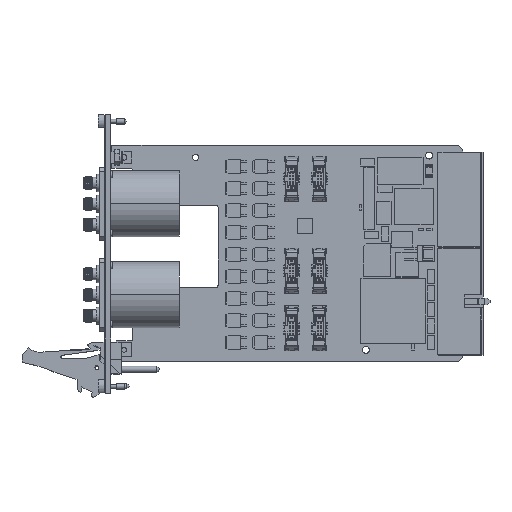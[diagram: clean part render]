
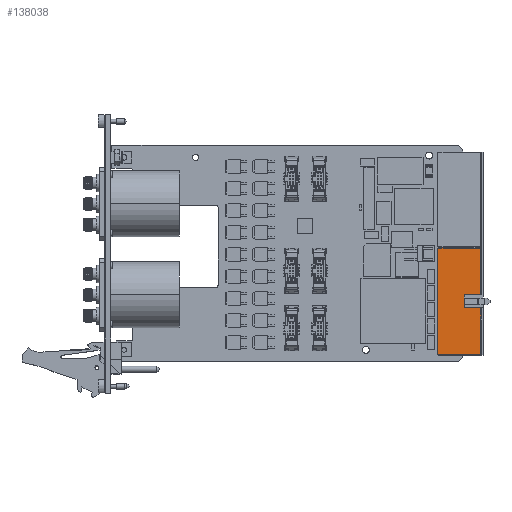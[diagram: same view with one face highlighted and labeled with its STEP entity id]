
A CAD part, top view. The second image highlights one B-rep face of the part: STEP entity #138038.
In plain terms, the highlighted planar face has unit normal (0, 0, 1).
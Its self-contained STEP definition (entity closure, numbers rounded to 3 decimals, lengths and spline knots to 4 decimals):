
#25607=DIRECTION('',(1.,0.,0.));
#25608=VECTOR('',#25607,0.7776);
#25609=CARTESIAN_POINT('',(5.8453,-3.7997,
0.3573));
#25610=LINE('',#25609,#25608);
#25619=DIRECTION('',(1.,0.,0.));
#25620=VECTOR('',#25619,0.7776);
#25621=CARTESIAN_POINT('',(5.8453,-1.8706,
0.3573));
#25622=LINE('',#25621,#25620);
#25943=DIRECTION('',(0.,1.,0.));
#25944=VECTOR('',#25943,0.8446);
#25945=CARTESIAN_POINT('',(6.6229,-3.7997,
0.3573));
#25946=LINE('',#25945,#25944);
#25947=DIRECTION('',(-1.,0.,0.));
#25948=VECTOR('',#25947,0.3031);
#25949=CARTESIAN_POINT('',(6.6229,-2.7151,
0.3573));
#25950=LINE('',#25949,#25948);
#25951=DIRECTION('',(0.,-1.,0.));
#25952=VECTOR('',#25951,0.06);
#25953=CARTESIAN_POINT('',(6.3197,-2.7151,
0.3573));
#25954=LINE('',#25953,#25952);
#25955=DIRECTION('',(0.,-1.,0.));
#25956=VECTOR('',#25955,0.06);
#25957=CARTESIAN_POINT('',(6.3197,-2.8951,
0.3573));
#25958=LINE('',#25957,#25956);
#25959=DIRECTION('',(-1.,0.,0.));
#25960=VECTOR('',#25959,0.3031);
#25961=CARTESIAN_POINT('',(6.6229,-2.9551,
0.3573));
#25962=LINE('',#25961,#25960);
#25963=DIRECTION('',(0.,1.,0.));
#25964=VECTOR('',#25963,1.9291);
#25965=CARTESIAN_POINT('',(5.8453,-3.7997,
0.3573));
#25966=LINE('',#25965,#25964);
#26011=DIRECTION('',(0.,1.,0.));
#26012=VECTOR('',#26011,0.12);
#26013=CARTESIAN_POINT('',(6.3197,-2.8951,
0.3573));
#26014=LINE('',#26013,#26012);
#26035=DIRECTION('',(0.,1.,0.));
#26036=VECTOR('',#26035,0.8446);
#26037=CARTESIAN_POINT('',(6.6229,-2.7151,
0.3573));
#26038=LINE('',#26037,#26036);
#85413=CARTESIAN_POINT('',(5.8453,-3.7997,
0.3573));
#85414=CARTESIAN_POINT('',(6.6229,-3.7997,
0.3573));
#85415=VERTEX_POINT('',#85413);
#85416=VERTEX_POINT('',#85414);
#85417=CARTESIAN_POINT('',(5.8453,-1.8706,
0.3573));
#85418=CARTESIAN_POINT('',(6.6229,-1.8706,
0.3573));
#85419=VERTEX_POINT('',#85417);
#85420=VERTEX_POINT('',#85418);
#85429=CARTESIAN_POINT('',(6.6229,-2.7151,
0.3573));
#85430=CARTESIAN_POINT('',(6.3197,-2.7151,
0.3573));
#85431=VERTEX_POINT('',#85429);
#85432=VERTEX_POINT('',#85430);
#85433=CARTESIAN_POINT('',(6.3197,-2.7751,
0.3573));
#85434=VERTEX_POINT('',#85433);
#85435=CARTESIAN_POINT('',(6.6229,-2.9551,
0.3573));
#85436=CARTESIAN_POINT('',(6.3197,-2.9551,
0.3573));
#85437=VERTEX_POINT('',#85435);
#85438=VERTEX_POINT('',#85436);
#85439=CARTESIAN_POINT('',(6.3197,-2.8951,
0.3573));
#85440=VERTEX_POINT('',#85439);
#138017=CARTESIAN_POINT('',(5.8453,-3.7997,
0.3573));
#138018=DIRECTION('',(0.,0.,1.));
#138019=DIRECTION('',(1.,0.,0.));
#138020=AXIS2_PLACEMENT_3D('',#138017,#138018,#138019);
#138021=PLANE('',#138020);
#138023=ORIENTED_EDGE('',*,*,#138022,.T.);
#138025=ORIENTED_EDGE('',*,*,#138024,.T.);
#138027=ORIENTED_EDGE('',*,*,#138026,.F.);
#138028=ORIENTED_EDGE('',*,*,#137956,.T.);
#138029=ORIENTED_EDGE('',*,*,#137973,.F.);
#138030=ORIENTED_EDGE('',*,*,#138012,.F.);
#138031=ORIENTED_EDGE('',*,*,#137509,.F.);
#138032=ORIENTED_EDGE('',*,*,#137527,.T.);
#138033=ORIENTED_EDGE('',*,*,#137545,.T.);
#138035=ORIENTED_EDGE('',*,*,#138034,.F.);
#138036=EDGE_LOOP('',(#138023,#138025,#138027,#138028,#138029,#138030,#138031,
#138032,#138033,#138035));
#138037=FACE_OUTER_BOUND('',#138036,.F.);
#138038=ADVANCED_FACE('',(#138037),#138021,.T.);
#137509=EDGE_CURVE('',#85415,#85416,#25610,.T.);
#137527=EDGE_CURVE('',#85415,#85419,#25966,.T.);
#137545=EDGE_CURVE('',#85419,#85420,#25622,.T.);
#137956=EDGE_CURVE('',#85440,#85438,#25958,.T.);
#137973=EDGE_CURVE('',#85437,#85438,#25962,.T.);
#138012=EDGE_CURVE('',#85416,#85437,#25946,.T.);
#138022=EDGE_CURVE('',#85431,#85432,#25950,.T.);
#138024=EDGE_CURVE('',#85432,#85434,#25954,.T.);
#138026=EDGE_CURVE('',#85440,#85434,#26014,.T.);
#138034=EDGE_CURVE('',#85431,#85420,#26038,.T.);
